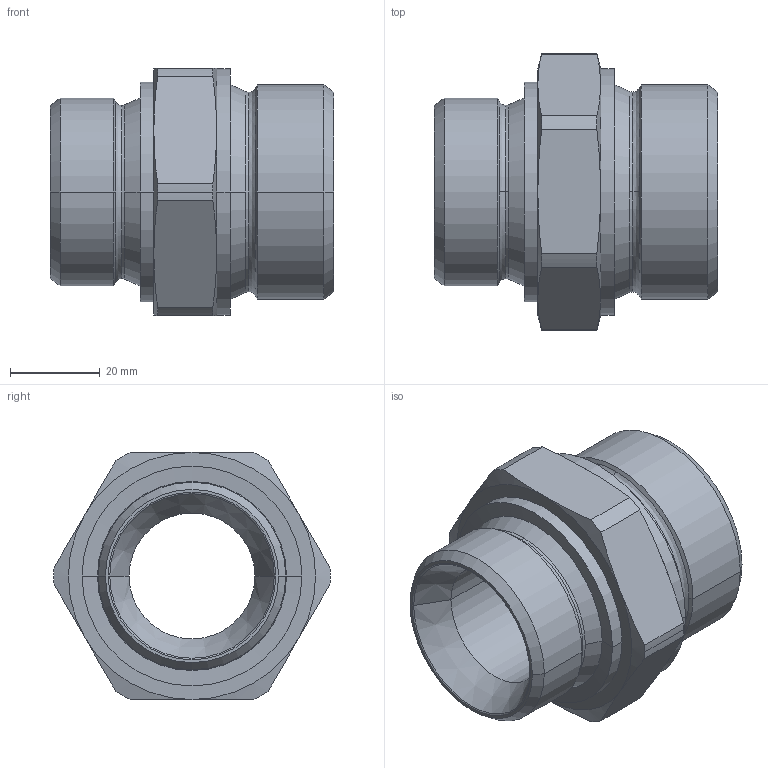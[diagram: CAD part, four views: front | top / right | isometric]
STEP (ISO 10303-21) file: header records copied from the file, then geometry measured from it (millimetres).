
FILE_DESCRIPTION((''),'2;1');
FILE_NAME('300527.stp','2006-09-11T08:14:28',(''),(''),'AutoCAD STEP 2000i','AutoCAD 2000i',', , ');
FILE_SCHEMA(('CONFIG_CONTROL_DESIGN'));
Length unit declared in the file: millimetre
Products named in the file (2): 300527.0; CHIAVE SMUSSATA#0
Assembly tree (1 placements, depth 2):
  300527.0
    CHIAVE SMUSSATA#0
Bounding box: 63 x 61.5 x 55 mm (x, y, z)
Volume: 63212.5 mm3; surface area: 18997.1 mm2
Topology: 1 solids, 1 shells, 76 faces, 178 edges, 106 vertices
Faces by surface type: cone 34, cylinder 20, plane 10, bspline 8, torus 4
Entity records: 2593 total; most frequent: CARTESIAN_POINT 762, DIRECTION 400, ORIENTED_EDGE 356, EDGE_CURVE 178, AXIS2_PLACEMENT_3D 176, VERTEX_POINT 106, CIRCLE 106, EDGE_LOOP 80
